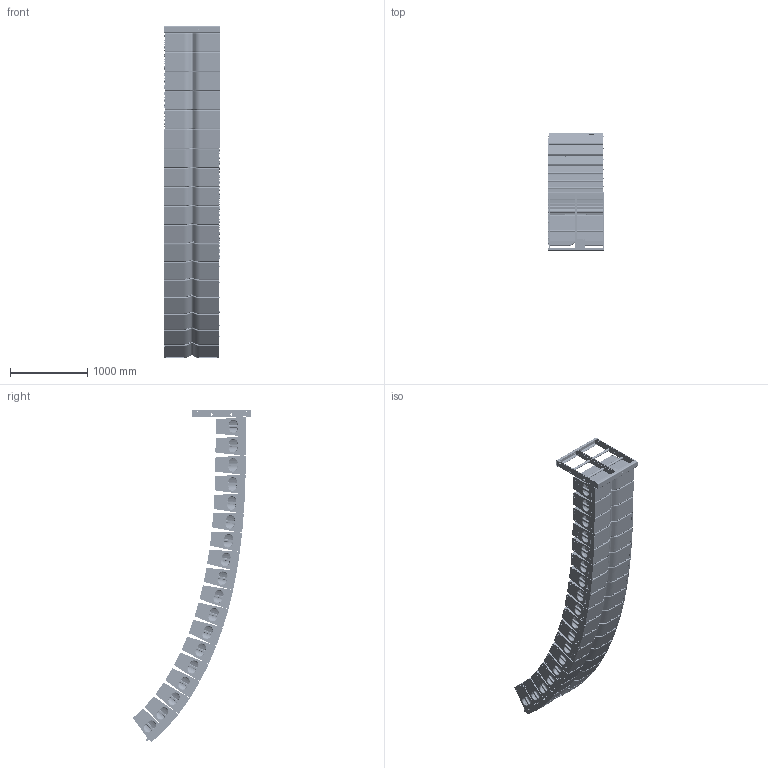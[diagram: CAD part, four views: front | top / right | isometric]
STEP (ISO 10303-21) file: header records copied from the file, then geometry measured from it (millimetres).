
FILE_DESCRIPTION(/* description */ (''),/* implementation_level */ '2;1');
FILE_NAME(/* name */ 'LA28 18 Box ARRAY v6.step',/* time_stamp */ '2023-01-22T00:25:05-08:00',/* author */ (''),/* organization */ (''),/* preprocessor_version */ 'ST-DEVELOPER v19.2',/* originating_system */ 'Autodesk Translation Framework v11.17.0.187',/* authorisation */ '');
FILE_SCHEMA (('AUTOMOTIVE_DESIGN { 1 0 10303 214 3 1 1 }'));
Length unit declared in the file: inch
Products named in the file (10): LA28 18 Box ARRAY; LA28 RF1 Sheet Metal Assembly; LA28RF1 Front Rear C Channel^la28RF1 SHEET METAL ASSEMBLY; LA28RF1 Center Bar^la28RF1 SHEET METAL ASSEMBLY; AL28RF1 Outer Bar^la28RF1 SHEET METAL ASSEMBLY; Inclinometer Mount Plate^la28RF1 SHEET METAL ASSEMBLY; Stabilizing Tube^la28RF1 SHEET METAL ASSEMBLY; Rear Connection Arm^la28RF1 SHEET METAL ASSEMBLY; LA18 LA28 Front Connection Tongue^la28RF1 SHEET METAL ASSEMBLY; LA28 TOUR BLOCK
Assembly tree (34 placements, depth 3):
  LA28 18 Box ARRAY
    LA28 RF1 Sheet Metal Assembly
      LA28RF1 Front Rear C Channel^la28RF1 SHEET METAL ASSEMBLY  x2
      LA28RF1 Center Bar^la28RF1 SHEET METAL ASSEMBLY  x2
      AL28RF1 Outer Bar^la28RF1 SHEET METAL ASSEMBLY  x4
      Inclinometer Mount Plate^la28RF1 SHEET METAL ASSEMBLY
      Stabilizing Tube^la28RF1 SHEET METAL ASSEMBLY  x2
      Rear Connection Arm^la28RF1 SHEET METAL ASSEMBLY  x2
      LA18 LA28 Front Connection Tongue^la28RF1 SHEET METAL ASSEMBLY  x2
    LA28 TOUR BLOCK  x18
Bounding box: 729.3 x 1523.89 x 4288.22 mm (x, y, z)
Volume: 1038498343 mm3; surface area: 23866794.9 mm2
Topology: 33 solids, 33 shells, 8129 faces, 19701 edges, 12670 vertices
Faces by surface type: plane 3560, cylinder 3489, torus 972, bspline 108
Full cylindrical faces by diameter (mm): 6.35 x4, 8.319 x108, 8.382 x1014, 8.7 x36, 13 x252, 16.51 x52, 17 x216, 19.05 x2, 22.86 x2, 25.4 x8, 27.178 x2, 31.75 x2, 32.004 x12
Entity records: 22894 total; most frequent: CARTESIAN_POINT 4191, DIRECTION 3952, ORIENTED_EDGE 3624, EDGE_CURVE 1812, AXIS2_PLACEMENT_3D 1417, VERTEX_POINT 1168, LINE 1118, VECTOR 1118
